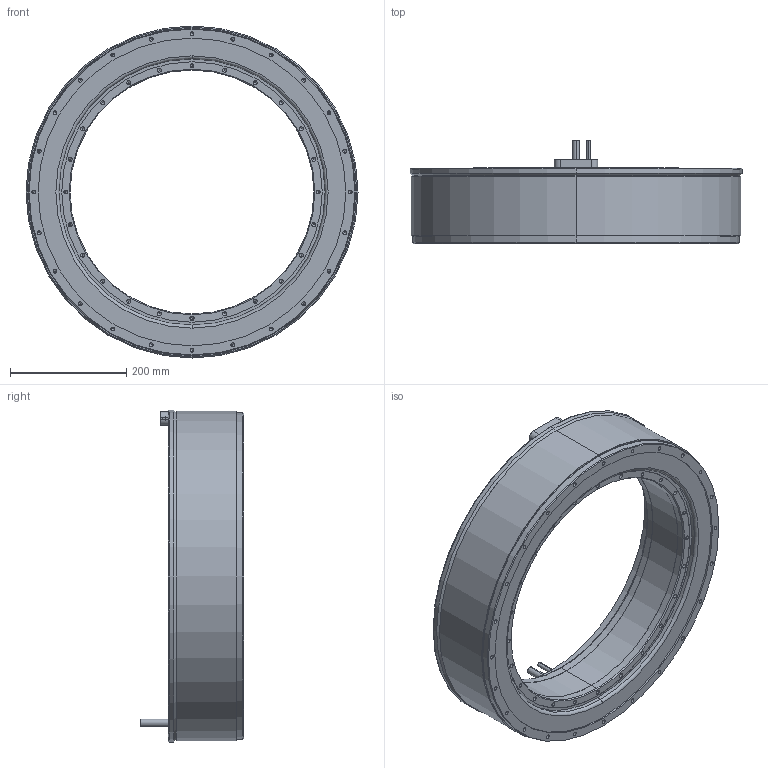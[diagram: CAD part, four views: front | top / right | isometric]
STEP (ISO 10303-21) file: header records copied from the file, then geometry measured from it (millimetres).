
FILE_DESCRIPTION (( 'STEP AP203' ), '1' );
FILE_NAME ('TM-2-G9-SB0(J0).STEP', '2023-06-06T03:39:02', ( '' ), ( '' ), 'SwSTEP 2.0', 'SolidWorks 2015', '' );
FILE_SCHEMA (( 'CONFIG_CONTROL_DESIGN' ));
Length unit declared in the file: millimetre
Products named in the file (3): TM-2-G9(J0)_Rotor; TM-2-G9-SB0(J0); TM-2-G9-SB0(J0)_Stator
Assembly tree (2 placements, depth 2):
  TM-2-G9-SB0(J0)
    TM-2-G9-SB0(J0)_Stator
    TM-2-G9(J0)_Rotor
Bounding box: 572 x 179 x 572 mm (x, y, z)
Volume: 13491999.2 mm3; surface area: 952009 mm2
Topology: 2 solids, 2 shells, 523 faces, 1266 edges, 670 vertices
Faces by surface type: cylinder 248, cone 216, plane 51, torus 8
Entity records: 14111 total; most frequent: DIRECTION 2660, CARTESIAN_POINT 2268, ORIENTED_EDGE 2140, EDGE_CURVE 1070, AXIS2_PLACEMENT_3D 1062, VERTEX_POINT 670, EDGE_LOOP 646, VECTOR 536
